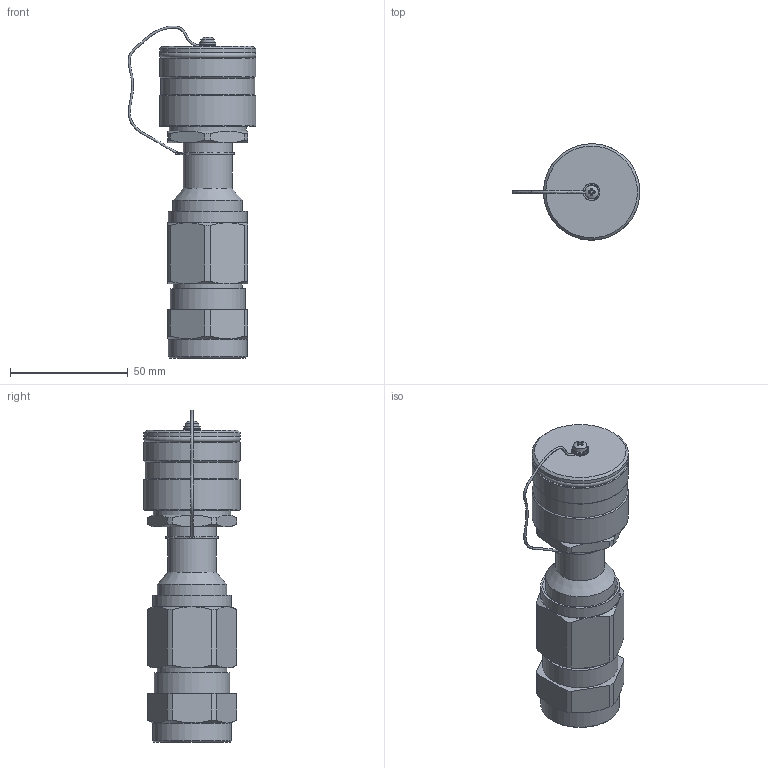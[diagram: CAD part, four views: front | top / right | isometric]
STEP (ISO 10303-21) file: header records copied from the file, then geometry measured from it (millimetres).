
FILE_DESCRIPTION((''),'2;1');
FILE_NAME('C:\Users\A.V.Nesterov\Desktop\111\3D\ТЗ\ТЗ 114653\РГМК-36AC-9-О_М3_3D.stp','2024-11-19T23:07:06',('A.V.Nesterov'),(''),'Autodesk Inventor 2012','Autodesk Inventor 2012','');
FILE_SCHEMA(('AUTOMOTIVE_DESIGN { 1 0 10303 214 1 1 1 1 }'));
Length unit declared in the file: millimetre
Products named in the file (1): РГМК-36AC-9-О_М3_3D
Bounding box: 54.27 x 40.96 x 141.18 mm (x, y, z)
Surface area: 48295 mm2 (no closed solid volume)
Topology: 0 solids, 12 shells, 328 faces, 800 edges, 514 vertices
Faces by surface type: plane 132, cylinder 110, cone 79, torus 4, bspline 2, sphere 1
Full cylindrical faces by diameter (mm): 2.459 x1, 2.75 x1, 3 x1, 3.2 x1, 3.5 x3, 7 x3, 7.079 x1, 10 x1, 16.3 x1, 17.1 x1, 18 x1, 19 x1, 20 x1, 20.8 x1, 22.5 x1, 25 x4, 26.8 x1, 29.4 x1, 29.5 x1, 29.8 x1, 29.835 x2, 30 x1, 30.5 x2, 32 x2, 32.8 x1, 33.5 x2, 34 x1, 36 x2, 36.376 x1, 38 x1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
Entity records: 10341 total; most frequent: CARTESIAN_POINT 2620, DIRECTION 1600, ORIENTED_EDGE 1420, EDGE_CURVE 710, AXIS2_PLACEMENT_3D 686, VERTEX_POINT 498, EDGE_LOOP 442, CIRCLE 355
